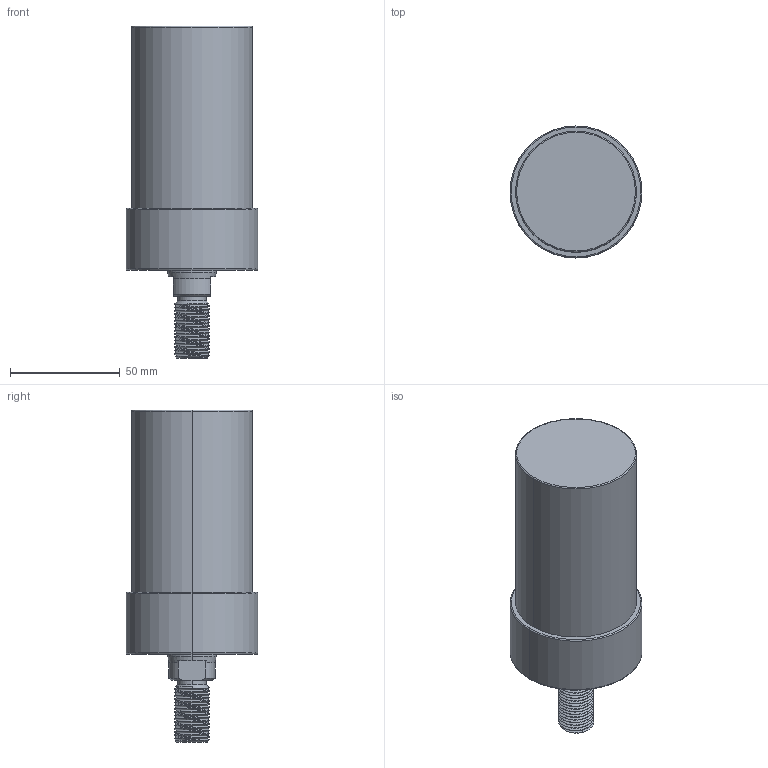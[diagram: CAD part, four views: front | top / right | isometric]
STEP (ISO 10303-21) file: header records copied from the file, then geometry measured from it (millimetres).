
FILE_DESCRIPTION (( 'STEP AP203' ), '1' );
FILE_NAME ('CLLU-055GT-070.STEP', '2020-01-16T00:54:25', ( '' ), ( '' ), 'SwSTEP 2.0', 'SolidWorks 2015', '' );
FILE_SCHEMA (( 'CONFIG_CONTROL_DESIGN' ));
Length unit declared in the file: millimetre
Products named in the file (1): CLLU-055GT-070
Bounding box: 60 x 60 x 151 mm (x, y, z)
Volume: 283609.8 mm3; surface area: 29345.3 mm2
Topology: 1 solids, 1 shells, 101 faces, 253 edges, 155 vertices
Faces by surface type: cylinder 55, cone 26, plane 12, torus 6, bspline 2
Entity records: 4862 total; most frequent: CARTESIAN_POINT 2592, ORIENTED_EDGE 490, DIRECTION 438, EDGE_CURVE 245, AXIS2_PLACEMENT_3D 176, VERTEX_POINT 155, EDGE_LOOP 110, FACE_OUTER_BOUND 101
